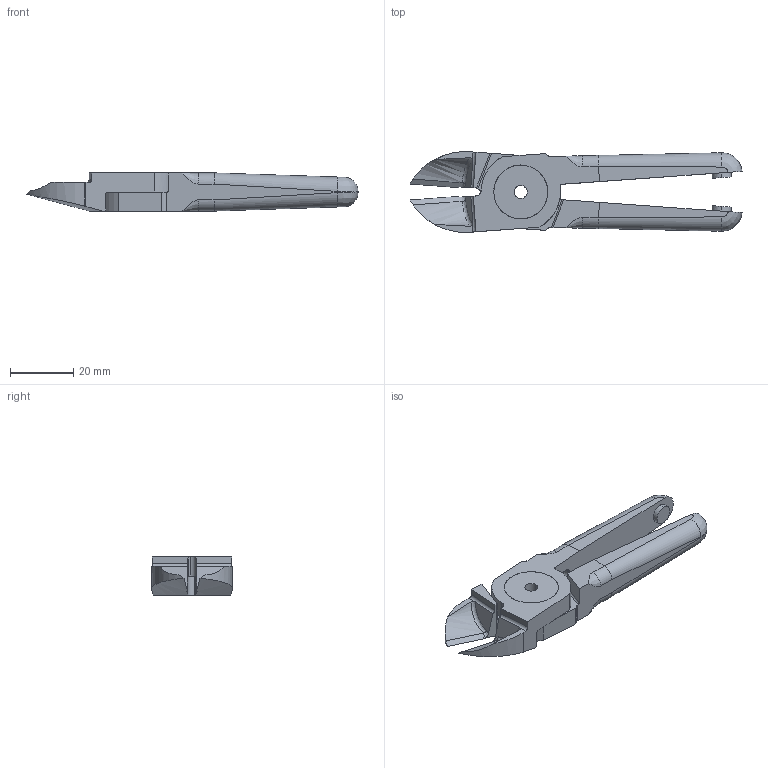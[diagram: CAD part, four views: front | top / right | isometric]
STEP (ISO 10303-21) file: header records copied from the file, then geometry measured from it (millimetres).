
FILE_DESCRIPTION (( 'STEP AP214' ), '1' );
FILE_NAME ('N12AP.STEP', '2019-11-29T03:31:57', ( '微软用户' ), ( '微软中国' ), 'SwSTEP 2.0', 'SolidWorks 2016', '' );
FILE_SCHEMA (( 'AUTOMOTIVE_DESIGN' ));
Length unit declared in the file: millimetre
Products named in the file (4): BR2; BR1; BS; N12AP
Assembly tree (3 placements, depth 2):
  N12AP
    BS
    BR1
    BR2
Bounding box: 104.62 x 25.4 x 12 mm (x, y, z)
Volume: 16671.9 mm3; surface area: 9534.8 mm2
Topology: 3 solids, 3 shells, 126 faces, 341 edges, 217 vertices
Faces by surface type: bspline 49, plane 45, cylinder 25, cone 7
Entity records: 10973 total; most frequent: CARTESIAN_POINT 8110, ORIENTED_EDGE 666, DIRECTION 425, EDGE_CURVE 333, VERTEX_POINT 217, VECTOR 169, LINE 169, EDGE_LOOP 136
